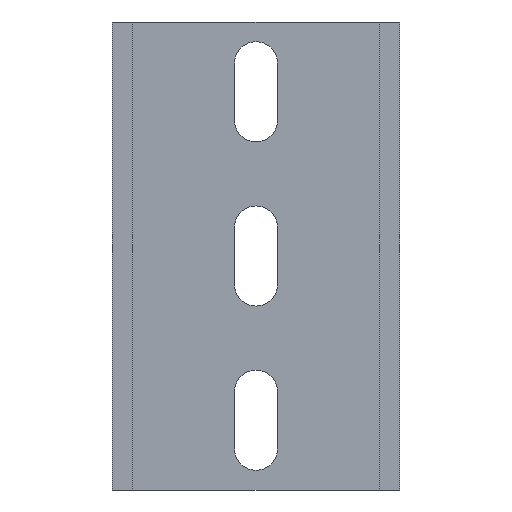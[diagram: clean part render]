
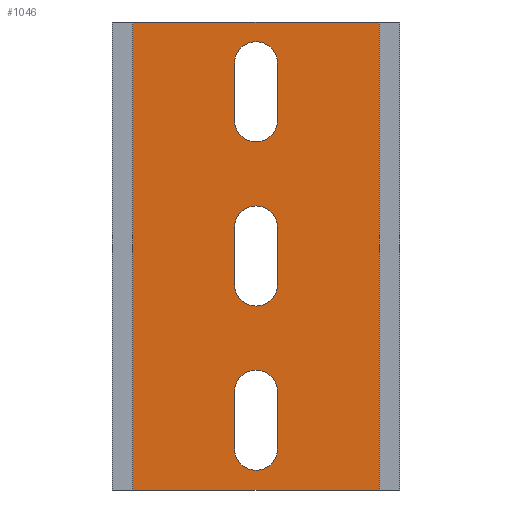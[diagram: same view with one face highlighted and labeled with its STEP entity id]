
A CAD part, front view. The second image highlights one B-rep face of the part: STEP entity #1046.
In plain terms, the highlighted planar face has unit normal (0, -1, 0).
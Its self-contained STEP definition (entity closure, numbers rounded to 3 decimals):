
#18=FACE_BOUND('',#140,.T.);
#19=FACE_BOUND('',#141,.T.);
#20=FACE_BOUND('',#142,.T.);
#21=CIRCLE('',#1090,2.6);
#23=CIRCLE('',#1094,2.6);
#29=CIRCLE('',#1103,2.6);
#31=CIRCLE('',#1107,2.6);
#33=CIRCLE('',#1111,2.6);
#35=CIRCLE('',#1115,2.6);
#84=FACE_OUTER_BOUND('',#139,.T.);
#139=EDGE_LOOP('',(#849,#850,#851,#852));
#140=EDGE_LOOP('',(#853,#854,#855,#856));
#141=EDGE_LOOP('',(#857,#858,#859,#860));
#142=EDGE_LOOP('',(#861,#862,#863,#864));
#161=LINE('',#1440,#291);
#166=LINE('',#1454,#296);
#183=LINE('',#1494,#313);
#203=LINE('',#1541,#333);
#208=LINE('',#1555,#338);
#211=LINE('',#1565,#341);
#216=LINE('',#1579,#346);
#257=LINE('',#1667,#387);
#258=LINE('',#1670,#388);
#259=LINE('',#1671,#389);
#291=VECTOR('',#1164,10.);
#296=VECTOR('',#1177,10.);
#313=VECTOR('',#1204,10.);
#333=VECTOR('',#1232,10.);
#338=VECTOR('',#1245,10.);
#341=VECTOR('',#1256,10.);
#346=VECTOR('',#1269,10.);
#387=VECTOR('',#1360,10.);
#388=VECTOR('',#1363,10.);
#389=VECTOR('',#1364,10.);
#421=VERTEX_POINT('',#1438);
#422=VERTEX_POINT('',#1439);
#425=VERTEX_POINT('',#1447);
#427=VERTEX_POINT('',#1453);
#444=VERTEX_POINT('',#1491);
#445=VERTEX_POINT('',#1493);
#467=VERTEX_POINT('',#1539);
#468=VERTEX_POINT('',#1540);
#471=VERTEX_POINT('',#1548);
#473=VERTEX_POINT('',#1554);
#475=VERTEX_POINT('',#1563);
#476=VERTEX_POINT('',#1564);
#479=VERTEX_POINT('',#1572);
#481=VERTEX_POINT('',#1578);
#503=VERTEX_POINT('',#1665);
#504=VERTEX_POINT('',#1669);
#521=EDGE_CURVE('',#421,#422,#161,.T.);
#525=EDGE_CURVE('',#422,#425,#21,.T.);
#528=EDGE_CURVE('',#425,#427,#166,.T.);
#531=EDGE_CURVE('',#427,#421,#23,.T.);
#548=EDGE_CURVE('',#444,#445,#183,.T.);
#571=EDGE_CURVE('',#467,#468,#203,.T.);
#575=EDGE_CURVE('',#468,#471,#29,.T.);
#578=EDGE_CURVE('',#471,#473,#208,.T.);
#581=EDGE_CURVE('',#473,#467,#31,.T.);
#583=EDGE_CURVE('',#475,#476,#211,.T.);
#587=EDGE_CURVE('',#476,#479,#33,.T.);
#590=EDGE_CURVE('',#479,#481,#216,.T.);
#593=EDGE_CURVE('',#481,#475,#35,.T.);
#635=EDGE_CURVE('',#503,#445,#257,.T.);
#636=EDGE_CURVE('',#504,#503,#258,.T.);
#637=EDGE_CURVE('',#504,#444,#259,.T.);
#849=ORIENTED_EDGE('',*,*,#636,.T.);
#850=ORIENTED_EDGE('',*,*,#635,.T.);
#851=ORIENTED_EDGE('',*,*,#548,.F.);
#852=ORIENTED_EDGE('',*,*,#637,.F.);
#853=ORIENTED_EDGE('',*,*,#521,.T.);
#854=ORIENTED_EDGE('',*,*,#525,.T.);
#855=ORIENTED_EDGE('',*,*,#528,.T.);
#856=ORIENTED_EDGE('',*,*,#531,.T.);
#857=ORIENTED_EDGE('',*,*,#571,.T.);
#858=ORIENTED_EDGE('',*,*,#575,.T.);
#859=ORIENTED_EDGE('',*,*,#578,.T.);
#860=ORIENTED_EDGE('',*,*,#581,.T.);
#861=ORIENTED_EDGE('',*,*,#583,.T.);
#862=ORIENTED_EDGE('',*,*,#587,.T.);
#863=ORIENTED_EDGE('',*,*,#590,.T.);
#864=ORIENTED_EDGE('',*,*,#593,.T.);
#996=PLANE('',#1139);
#1046=ADVANCED_FACE('',(#84,#18,#19,#20),#996,.T.);
#1090=AXIS2_PLACEMENT_3D('',#1448,#1170,#1171);
#1094=AXIS2_PLACEMENT_3D('',#1459,#1182,#1183);
#1103=AXIS2_PLACEMENT_3D('',#1549,#1238,#1239);
#1107=AXIS2_PLACEMENT_3D('',#1560,#1250,#1251);
#1111=AXIS2_PLACEMENT_3D('',#1573,#1262,#1263);
#1115=AXIS2_PLACEMENT_3D('',#1584,#1274,#1275);
#1139=AXIS2_PLACEMENT_3D('',#1668,#1361,#1362);
#1164=DIRECTION('',(0.,0.,-1.));
#1170=DIRECTION('center_axis',(0.,1.,0.));
#1171=DIRECTION('ref_axis',(1.,0.,0.));
#1177=DIRECTION('',(0.,0.,1.));
#1182=DIRECTION('center_axis',(0.,1.,0.));
#1183=DIRECTION('ref_axis',(-1.,0.,0.));
#1204=DIRECTION('',(1.,0.,0.));
#1232=DIRECTION('',(0.,0.,-1.));
#1238=DIRECTION('center_axis',(0.,1.,0.));
#1239=DIRECTION('ref_axis',(1.,0.,0.));
#1245=DIRECTION('',(0.,0.,1.));
#1250=DIRECTION('center_axis',(0.,1.,0.));
#1251=DIRECTION('ref_axis',(-1.,0.,0.));
#1256=DIRECTION('',(0.,0.,-1.));
#1262=DIRECTION('center_axis',(0.,1.,0.));
#1263=DIRECTION('ref_axis',(1.,0.,0.));
#1269=DIRECTION('',(0.,0.,1.));
#1274=DIRECTION('center_axis',(0.,1.,0.));
#1275=DIRECTION('ref_axis',(-1.,0.,0.));
#1360=DIRECTION('',(0.,0.,1.));
#1361=DIRECTION('center_axis',(0.,-1.,0.));
#1362=DIRECTION('ref_axis',(1.,0.,0.));
#1363=DIRECTION('',(1.,0.,0.));
#1364=DIRECTION('',(0.,0.,1.));
#1438=CARTESIAN_POINT('',(2.6,0.,52.));
#1439=CARTESIAN_POINT('',(2.6,0.,45.));
#1440=CARTESIAN_POINT('',(2.6,0.,22.5));
#1447=CARTESIAN_POINT('',(-2.6,0.,45.));
#1448=CARTESIAN_POINT('Origin',(0.,0.,
45.));
#1453=CARTESIAN_POINT('',(-2.6,0.,52.));
#1454=CARTESIAN_POINT('',(-2.6,0.,26.));
#1459=CARTESIAN_POINT('Origin',(0.,0.,
52.));
#1491=CARTESIAN_POINT('',(-15.,0.,57.));
#1493=CARTESIAN_POINT('',(15.,0.,57.));
#1494=CARTESIAN_POINT('',(-15.,0.,57.));
#1539=CARTESIAN_POINT('',(2.6,0.,32.));
#1540=CARTESIAN_POINT('',(2.6,0.,25.));
#1541=CARTESIAN_POINT('',(2.6,0.,12.5));
#1548=CARTESIAN_POINT('',(-2.6,0.,25.));
#1549=CARTESIAN_POINT('Origin',(0.,0.,
25.));
#1554=CARTESIAN_POINT('',(-2.6,0.,32.));
#1555=CARTESIAN_POINT('',(-2.6,0.,16.));
#1560=CARTESIAN_POINT('Origin',(0.,0.,
32.));
#1563=CARTESIAN_POINT('',(2.6,0.,12.));
#1564=CARTESIAN_POINT('',(2.6,0.,5.));
#1565=CARTESIAN_POINT('',(2.6,0.,2.5));
#1572=CARTESIAN_POINT('',(-2.6,0.,5.));
#1573=CARTESIAN_POINT('Origin',(0.,0.,
5.));
#1578=CARTESIAN_POINT('',(-2.6,0.,12.));
#1579=CARTESIAN_POINT('',(-2.6,0.,6.));
#1584=CARTESIAN_POINT('Origin',(0.,0.,
12.));
#1665=CARTESIAN_POINT('',(15.,0.,0.));
#1667=CARTESIAN_POINT('',(15.,0.,0.));
#1668=CARTESIAN_POINT('Origin',(-15.,0.,0.));
#1669=CARTESIAN_POINT('',(-15.,0.,0.));
#1670=CARTESIAN_POINT('',(-15.,0.,0.));
#1671=CARTESIAN_POINT('',(-15.,0.,0.));
